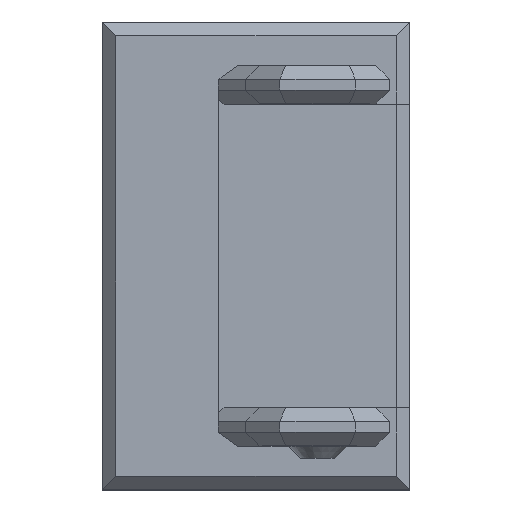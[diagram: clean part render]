
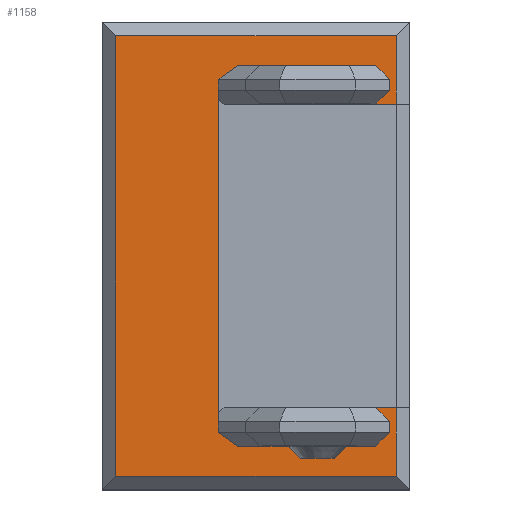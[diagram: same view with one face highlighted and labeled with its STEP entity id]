
A CAD part, top view. The second image highlights one B-rep face of the part: STEP entity #1158.
In plain terms, the highlighted planar face has unit normal (0, 0, 1).
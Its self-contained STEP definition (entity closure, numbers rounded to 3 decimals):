
#43=(
BOUNDED_CURVE()
B_SPLINE_CURVE(2,(#1783,#1784,#1785,#1786),.UNSPECIFIED.,.F.,.F.)
B_SPLINE_CURVE_WITH_KNOTS((3,1,3),(6.407,9.825,11.819),
 .UNSPECIFIED.)
CURVE()
GEOMETRIC_REPRESENTATION_ITEM()
RATIONAL_B_SPLINE_CURVE((8.778,9.729,9.333,
8.778))
REPRESENTATION_ITEM('')
);
#71=FACE_OUTER_BOUND('',#139,.T.);
#139=EDGE_LOOP('',(#855,#856,#857,#858,#859,#860,#861,#862,#863,#864,#865,
#866,#867,#868,#869,#870,#871,#872,#873,#874,#875,#876));
#209=LINE('',#1668,#356);
#221=LINE('',#1691,#368);
#225=LINE('',#1698,#372);
#234=LINE('',#1717,#381);
#248=LINE('',#1743,#395);
#249=LINE('',#1747,#396);
#254=LINE('',#1757,#401);
#257=LINE('',#1763,#404);
#260=LINE('',#1767,#407);
#262=LINE('',#1770,#409);
#263=LINE('',#1773,#410);
#264=LINE('',#1775,#411);
#265=LINE('',#1777,#412);
#266=LINE('',#1779,#413);
#267=LINE('',#1781,#414);
#268=LINE('',#1788,#415);
#269=LINE('',#1790,#416);
#270=LINE('',#1792,#417);
#271=LINE('',#1793,#418);
#272=LINE('',#1794,#419);
#273=LINE('',#1795,#420);
#356=VECTOR('',#1335,10.);
#368=VECTOR('',#1355,10.);
#372=VECTOR('',#1361,10.);
#381=VECTOR('',#1380,10.);
#395=VECTOR('',#1406,10.);
#396=VECTOR('',#1409,10.);
#401=VECTOR('',#1416,10.);
#404=VECTOR('',#1421,10.);
#407=VECTOR('',#1426,10.);
#409=VECTOR('',#1430,10.);
#410=VECTOR('',#1433,10.);
#411=VECTOR('',#1434,10.);
#412=VECTOR('',#1435,10.);
#413=VECTOR('',#1436,10.);
#414=VECTOR('',#1437,10.);
#415=VECTOR('',#1438,10.);
#416=VECTOR('',#1439,10.);
#417=VECTOR('',#1440,10.);
#418=VECTOR('',#1441,10.);
#419=VECTOR('',#1442,10.);
#420=VECTOR('',#1443,10.);
#500=VERTEX_POINT('',#1665);
#501=VERTEX_POINT('',#1667);
#507=VERTEX_POINT('',#1688);
#508=VERTEX_POINT('',#1690);
#510=VERTEX_POINT('',#1696);
#515=VERTEX_POINT('',#1716);
#521=VERTEX_POINT('',#1741);
#522=VERTEX_POINT('',#1745);
#523=VERTEX_POINT('',#1746);
#526=VERTEX_POINT('',#1754);
#527=VERTEX_POINT('',#1756);
#528=VERTEX_POINT('',#1760);
#529=VERTEX_POINT('',#1762);
#530=VERTEX_POINT('',#1772);
#531=VERTEX_POINT('',#1774);
#532=VERTEX_POINT('',#1776);
#533=VERTEX_POINT('',#1778);
#534=VERTEX_POINT('',#1780);
#535=VERTEX_POINT('',#1782);
#536=VERTEX_POINT('',#1787);
#537=VERTEX_POINT('',#1789);
#538=VERTEX_POINT('',#1791);
#602=EDGE_CURVE('',#500,#501,#209,.F.);
#614=EDGE_CURVE('',#507,#508,#221,.F.);
#618=EDGE_CURVE('',#500,#510,#225,.T.);
#627=EDGE_CURVE('',#515,#508,#234,.T.);
#641=EDGE_CURVE('',#521,#510,#248,.F.);
#642=EDGE_CURVE('',#522,#523,#249,.T.);
#647=EDGE_CURVE('',#526,#527,#254,.T.);
#650=EDGE_CURVE('',#528,#529,#257,.T.);
#653=EDGE_CURVE('',#529,#526,#260,.T.);
#655=EDGE_CURVE('',#527,#522,#262,.T.);
#656=EDGE_CURVE('',#528,#530,#263,.T.);
#657=EDGE_CURVE('',#531,#530,#264,.F.);
#658=EDGE_CURVE('',#531,#532,#265,.T.);
#659=EDGE_CURVE('',#533,#532,#266,.F.);
#660=EDGE_CURVE('',#534,#533,#267,.T.);
#661=EDGE_CURVE('',#534,#535,#43,.T.);
#662=EDGE_CURVE('',#536,#535,#268,.T.);
#663=EDGE_CURVE('',#537,#536,#269,.F.);
#664=EDGE_CURVE('',#538,#537,#270,.T.);
#665=EDGE_CURVE('',#538,#515,#271,.T.);
#666=EDGE_CURVE('',#507,#501,#272,.T.);
#667=EDGE_CURVE('',#521,#523,#273,.T.);
#855=ORIENTED_EDGE('',*,*,#642,.F.);
#856=ORIENTED_EDGE('',*,*,#655,.F.);
#857=ORIENTED_EDGE('',*,*,#647,.F.);
#858=ORIENTED_EDGE('',*,*,#653,.F.);
#859=ORIENTED_EDGE('',*,*,#650,.F.);
#860=ORIENTED_EDGE('',*,*,#656,.T.);
#861=ORIENTED_EDGE('',*,*,#657,.F.);
#862=ORIENTED_EDGE('',*,*,#658,.T.);
#863=ORIENTED_EDGE('',*,*,#659,.F.);
#864=ORIENTED_EDGE('',*,*,#660,.F.);
#865=ORIENTED_EDGE('',*,*,#661,.T.);
#866=ORIENTED_EDGE('',*,*,#662,.F.);
#867=ORIENTED_EDGE('',*,*,#663,.F.);
#868=ORIENTED_EDGE('',*,*,#664,.F.);
#869=ORIENTED_EDGE('',*,*,#665,.T.);
#870=ORIENTED_EDGE('',*,*,#627,.T.);
#871=ORIENTED_EDGE('',*,*,#614,.F.);
#872=ORIENTED_EDGE('',*,*,#666,.T.);
#873=ORIENTED_EDGE('',*,*,#602,.F.);
#874=ORIENTED_EDGE('',*,*,#618,.T.);
#875=ORIENTED_EDGE('',*,*,#641,.F.);
#876=ORIENTED_EDGE('',*,*,#667,.T.);
#1097=PLANE('',#1240);
#1158=ADVANCED_FACE('',(#71),#1097,.T.);
#1240=AXIS2_PLACEMENT_3D('',#1771,#1431,#1432);
#1335=DIRECTION('',(0.707,-0.707,0.));
#1355=DIRECTION('',(0.816,0.577,0.));
#1361=DIRECTION('',(0.,-1.,0.));
#1380=DIRECTION('',(0.,1.,0.));
#1406=DIRECTION('',(-0.707,-0.707,0.));
#1409=DIRECTION('',(0.,-1.,0.));
#1416=DIRECTION('',(0.,1.,0.));
#1421=DIRECTION('',(0.,-1.,0.));
#1426=DIRECTION('',(-1.,0.,0.));
#1430=DIRECTION('',(1.,0.,0.));
#1431=DIRECTION('center_axis',(0.,0.,1.));
#1432=DIRECTION('ref_axis',(-1.,0.,0.));
#1433=DIRECTION('',(-1.,0.,0.));
#1434=DIRECTION('',(0.707,-0.707,0.));
#1435=DIRECTION('',(0.,-1.,0.));
#1436=DIRECTION('',(-0.707,-0.707,0.));
#1437=DIRECTION('',(1.,0.,0.));
#1438=DIRECTION('',(1.,0.,0.));
#1439=DIRECTION('',(-0.816,0.577,0.));
#1440=DIRECTION('',(0.,-1.,0.));
#1441=DIRECTION('',(0.,1.,0.));
#1442=DIRECTION('',(1.,0.,0.));
#1443=DIRECTION('',(1.,0.,0.));
#1665=CARTESIAN_POINT('',(10.5,29.455,-43.337));
#1667=CARTESIAN_POINT('',(8.5,31.455,-43.337));
#1668=CARTESIAN_POINT('',(22.75,17.205,-43.337));
#1688=CARTESIAN_POINT('',(-11.672,31.455,-43.337));
#1690=CARTESIAN_POINT('',(-14.5,29.455,-43.337));
#1691=CARTESIAN_POINT('',(-13.384,30.244,-43.337));
#1696=CARTESIAN_POINT('',(10.5,27.855,-43.337));
#1698=CARTESIAN_POINT('',(10.5,6.455,-43.337));
#1716=CARTESIAN_POINT('',(-14.5,27.855,-43.337));
#1717=CARTESIAN_POINT('',(-14.5,6.455,-43.337));
#1741=CARTESIAN_POINT('',(8.5,25.855,-43.337));
#1743=CARTESIAN_POINT('',(-0.85,16.505,-43.337));
#1745=CARTESIAN_POINT('',(11.5,35.855,-43.337));
#1746=CARTESIAN_POINT('',(11.5,25.855,-43.337));
#1747=CARTESIAN_POINT('',(11.5,-18.545,-43.337));
#1754=CARTESIAN_POINT('',(-29.5,-28.545,-43.337));
#1756=CARTESIAN_POINT('',(-29.5,35.855,-43.337));
#1757=CARTESIAN_POINT('',(-29.5,-18.545,-43.337));
#1760=CARTESIAN_POINT('',(11.5,-18.545,-43.337));
#1762=CARTESIAN_POINT('',(11.5,-28.545,-43.337));
#1763=CARTESIAN_POINT('',(11.5,-18.545,-43.337));
#1767=CARTESIAN_POINT('',(2.25,-28.545,-43.337));
#1770=CARTESIAN_POINT('',(2.25,35.855,-43.337));
#1771=CARTESIAN_POINT('Origin',(13.5,-18.545,-43.337));
#1772=CARTESIAN_POINT('',(8.5,-18.545,-43.337));
#1773=CARTESIAN_POINT('',(13.5,-18.545,-43.337));
#1774=CARTESIAN_POINT('',(10.5,-20.545,-43.337));
#1775=CARTESIAN_POINT('',(10.25,-20.295,-43.337));
#1776=CARTESIAN_POINT('',(10.5,-22.145,-43.337));
#1777=CARTESIAN_POINT('',(10.5,-18.545,-43.337));
#1778=CARTESIAN_POINT('',(8.5,-24.145,-43.337));
#1779=CARTESIAN_POINT('',(11.65,-20.995,-43.337));
#1780=CARTESIAN_POINT('',(2.239,-24.145,-43.337));
#1781=CARTESIAN_POINT('',(13.5,-24.145,-43.337));
#1782=CARTESIAN_POINT('',(-2.239,-24.145,-43.337));
#1783=CARTESIAN_POINT('Ctrl Pts',(2.239,-24.145,-43.337));
#1784=CARTESIAN_POINT('Ctrl Pts',(0.744,-24.924,-43.337));
#1785=CARTESIAN_POINT('Ctrl Pts',(-1.33,-24.618,-43.337));
#1786=CARTESIAN_POINT('Ctrl Pts',(-2.239,-24.145,-43.337));
#1787=CARTESIAN_POINT('',(-11.672,-24.145,-43.337));
#1788=CARTESIAN_POINT('',(13.5,-24.145,-43.337));
#1789=CARTESIAN_POINT('',(-14.5,-22.145,-43.337));
#1790=CARTESIAN_POINT('',(-2.919,-30.334,-43.337));
#1791=CARTESIAN_POINT('',(-14.5,-20.545,-43.337));
#1792=CARTESIAN_POINT('',(-14.5,-18.545,-43.337));
#1793=CARTESIAN_POINT('',(-14.5,6.455,-43.337));
#1794=CARTESIAN_POINT('',(5.75,31.455,-43.337));
#1795=CARTESIAN_POINT('',(-0.5,25.855,-43.337));
